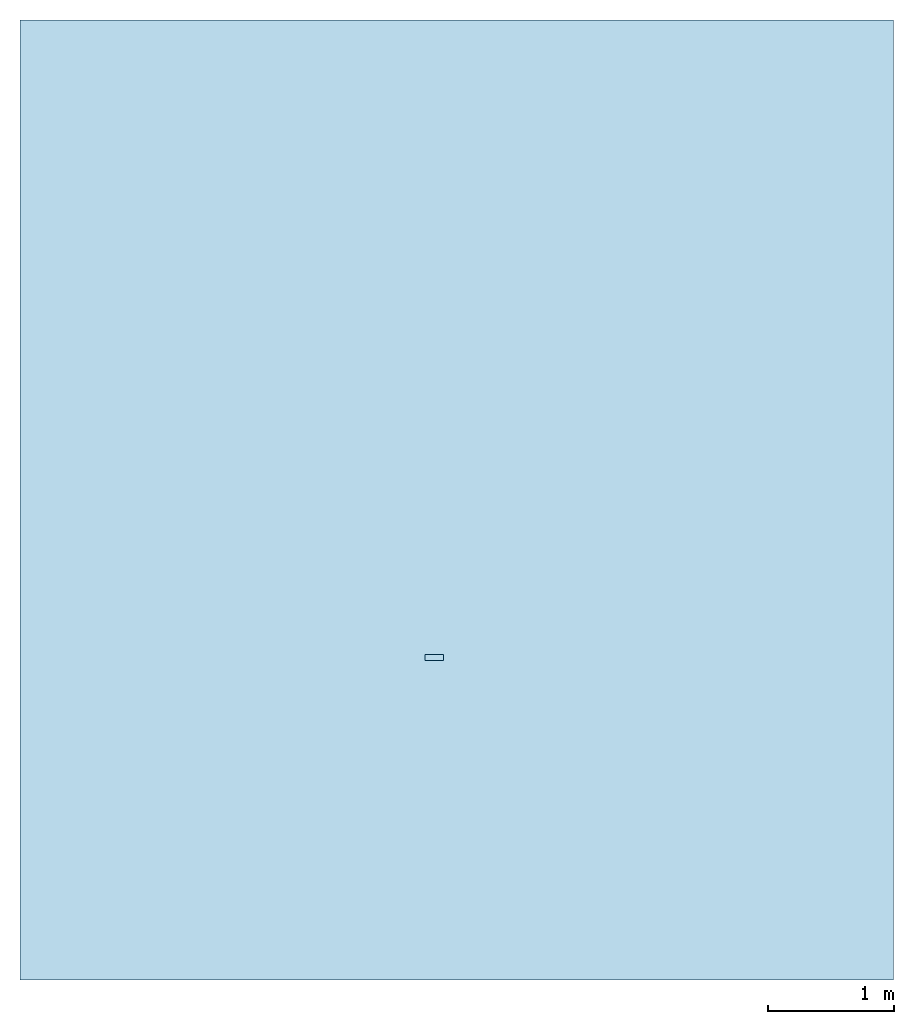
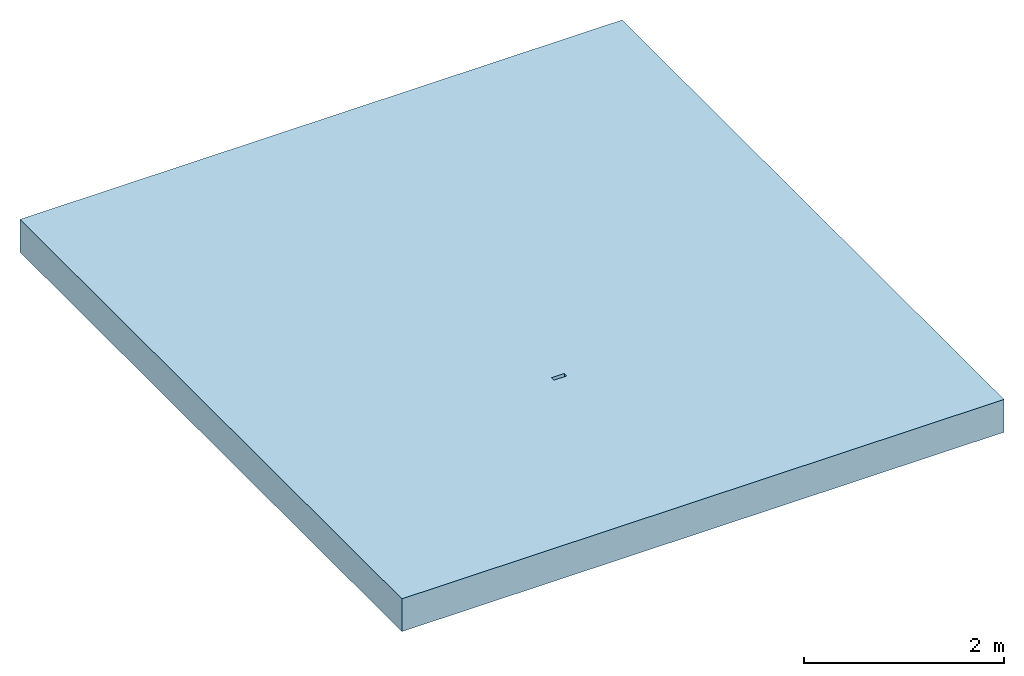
# One storey: 1 slab, 2 openings.
"""IFC2X3 building model written with IfcOpenShell, lengths in millimetres."""

from ifc_helpers import new_model, entity, si_unit, converted_unit, direction, frame, frame_2d, origin, origin_2d_with_axis, place, context, subcontext, project, spatial, rectangle, circle, extrude, material, layer, layer_set, layer_usage, element, save


model = new_model("IFC2X3")

# Units and contexts
model_context = context("Model", 3, precision=1e-06, world=origin(), true_north=direction((2.0, 6.12303176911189e-17, 1.0)))
context_of_model = context(None, 3, precision=1e-06, world=origin(), true_north=direction((2.0, 6.12303176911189e-17, 1.0)))
body_context = subcontext(model_context, "Body", "Model", "MODEL_VIEW")
ifc_project = project(units=[si_unit("LENGTHUNIT", "METRE", prefix="MILLI"), si_unit("AREAUNIT", "SQUARE_METRE", prefix="MILLI"), si_unit("VOLUMEUNIT", "CUBIC_METRE", prefix="MILLI"), converted_unit("PLANEANGLEUNIT", "DEGREE", entity("IfcRatioMeasure", 0.0174532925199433), si_unit("PLANEANGLEUNIT", "RADIAN"), dimensions=[0, 0, 0, 0, 0, 0, 0]), si_unit("TIMEUNIT", "SECOND")], contexts=[model_context, context_of_model])

# Site, building, storey
site_placement = place(None, origin())
site = spatial("IfcSite", under=ifc_project, at=site_placement, Name="Default", CompositionType="ELEMENT")
building_placement = place(site_placement, origin())
building = spatial("IfcBuilding", under=site, at=building_placement, CompositionType="ELEMENT")
storey_placement = place(building_placement, origin())
storey = spatial("IfcBuildingStorey", under=building, at=storey_placement, Name="Level 1", CompositionType="ELEMENT", Elevation=0.0)

# Slab, openings
ifc_material = material(Name="Default Floor")
ifc_layer = layer(ifc_material, 400.0)
ifc_layer_set = layer_set([ifc_layer], Name="Floor:Generic Floor - 400mm")
ifc_layer_usage = layer_usage(ifc_layer_set, "AXIS3", "POSITIVE", 0.0)
slab_placement = place(storey_placement, frame((-7557.94102256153, -9435.59687809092, -400.0)))
slab = element("IfcSlab", 1, at=slab_placement, inside=storey, material=ifc_layer_usage, Name="Floor:Generic Floor - 400mm", ObjectType="Floor:Generic Floor - 400mm", PredefinedType="FLOOR", context=body_context, shape_type="SweptSolid", body=[
    extrude(rectangle(XDim=7632.29114211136, YDim=6946.28644627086, at=frame_2d((0.0, 0.0), x_axis=(0.0, -1.0))), frame((3473.14322313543, 3816.14557105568, 400.0), z_axis=(0.0, 0.0, -1.0), x_axis=(-1.0, 0.0, 0.0)), (0.0, 0.0, 1.0), 400.0),
])
opening_1_placement = place(slab_placement, origin())
element("IfcOpeningElement", 2, at=opening_1_placement, cuts=slab, ObjectType="Recess", context=body_context, shape_type="SweptSolid", body=[
    extrude(circle(Radius=55.0000000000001, at=origin_2d_with_axis()), frame((3293.73045858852, 2589.04665839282, -5475.0), z_axis=(0.0, 1.0, 0.0), x_axis=(1.0, 0.0, 0.0)), (0.0, 0.0, 1.0), 49.9999999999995),
])
opening_2_placement = place(slab_placement, origin())
element("IfcOpeningElement", 3, at=opening_2_placement, cuts=slab, ObjectType="Recess", context=body_context, shape_type="SweptSolid", body=[
    extrude(rectangle(XDim=49.9999999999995, YDim=150.000000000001, at=origin_2d_with_axis()), frame((3293.73045858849, 2564.04665839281, 45.0), z_axis=(0.0, 0.0, 1.0), x_axis=(0.0, -1.0, 0.0)), (0.0, 0.0, 1.0), 355.0),
])

save(model, "model.ifc")
